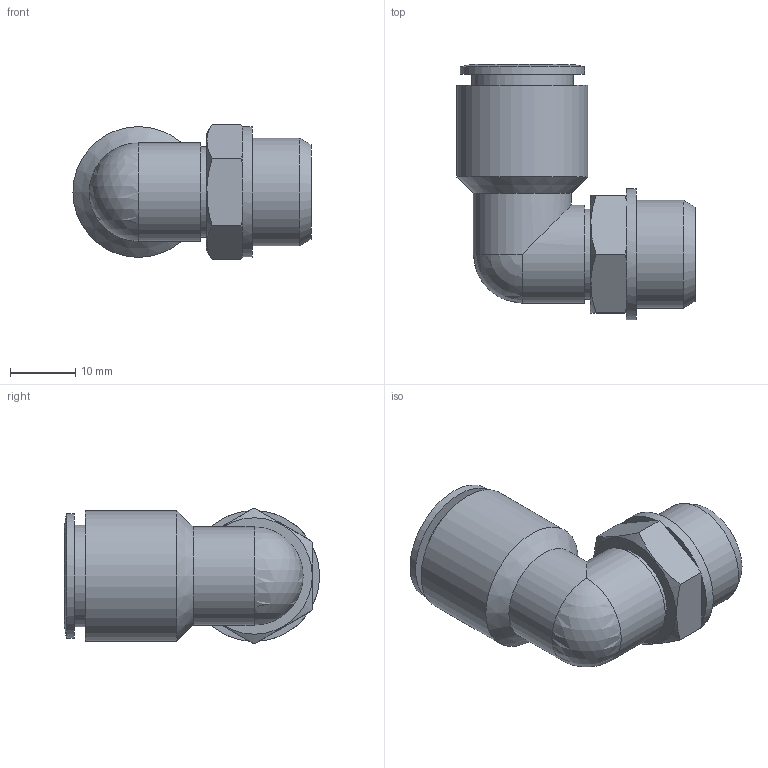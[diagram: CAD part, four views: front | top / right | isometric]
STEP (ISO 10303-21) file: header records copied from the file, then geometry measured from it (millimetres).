
FILE_DESCRIPTION((''),'2;1');
FILE_NAME('C:\Documents and Settings\rivolro1\Documenti\copia di Raccordi\PLASTICA\T22XXXX\T221238.stp','2007-11-02T14:27:57',('Rivolro1'),(''),'Autodesk Inventor 2008','Autodesk Inventor 2008','');
FILE_SCHEMA(('AUTOMOTIVE_DESIGN { 1 0 10303 214 1 1 1 1 }'));
Length unit declared in the file: millimetre
Products named in the file (1): T221238
Bounding box: 36.4 x 39 x 20.78 mm (x, y, z)
Volume: 8287.6 mm3; surface area: 5854.5 mm2
Topology: 1 solids, 1 shells, 48 faces, 106 edges, 62 vertices
Faces by surface type: plane 20, cylinder 12, cone 11, bspline 4, sphere 1
Full cylindrical faces by diameter (mm): 8.8 x1, 10.3 x1, 13.8 x1, 14 x1, 15 x2, 15.5 x1, 16.5 x1, 19 x1, 20 x2
Entity records: 1354 total; most frequent: CARTESIAN_POINT 373, DIRECTION 192, ORIENTED_EDGE 158, AXIS2_PLACEMENT_3D 88, EDGE_CURVE 79, EDGE_LOOP 73, VERTEX_POINT 56, FACE_OUTER_BOUND 48
